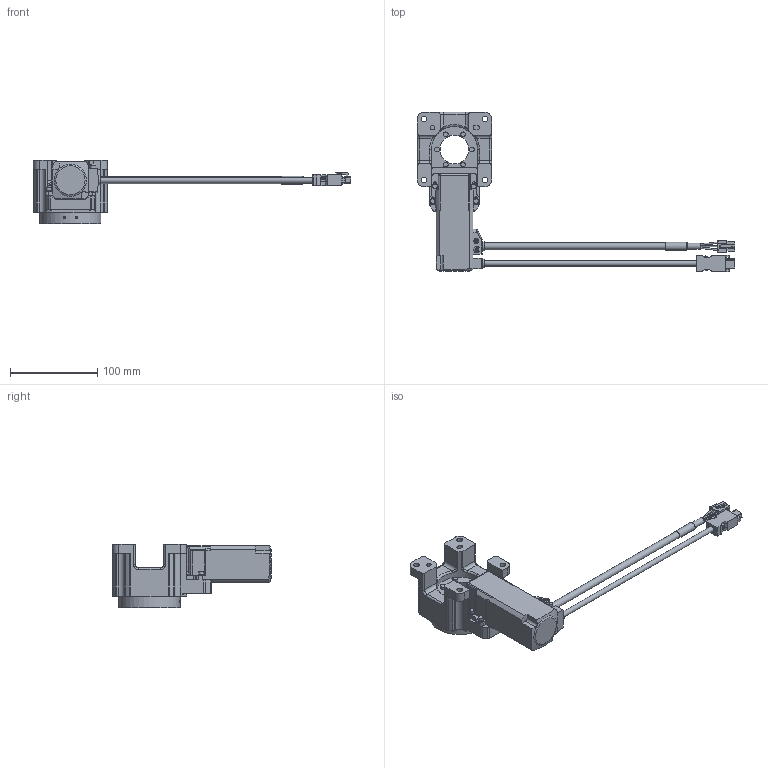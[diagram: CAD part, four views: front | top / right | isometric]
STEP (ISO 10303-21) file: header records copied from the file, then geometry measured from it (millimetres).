
FILE_DESCRIPTION (( 'STEP AP203' ), '1' );
FILE_NAME ('DGB85R12-AZACL.STEP', '2019-09-30T01:32:09', ( 'U38102' ), ( 'Hewlett-Packard Company' ), 'SwSTEP 2.0', 'SolidWorks 2017', '' );
FILE_SCHEMA (( 'CONFIG_CONTROL_DESIGN' ));
Length unit declared in the file: millimetre
Products named in the file (3): DGB85R12-AZACL_BASE; DGB85R12-AZACL_MovingPart; DGB85R12-AZACL
Assembly tree (2 placements, depth 2):
  DGB85R12-AZACL
    DGB85R12-AZACL_BASE
    DGB85R12-AZACL_MovingPart
Bounding box: 363.5 x 182.4 x 73 mm (x, y, z)
Volume: 480636.9 mm3; surface area: 92431.6 mm2
Topology: 2 solids, 13 shells, 860 faces, 2219 edges, 1441 vertices
Faces by surface type: plane 573, cylinder 228, cone 19, bspline 18, torus 17, sphere 5
Full cylindrical faces by diameter (mm): 0.5 x6, 2.05 x2, 2.5 x6, 3 x4, 3.3 x6, 5 x3, 5.2 x1, 5.5 x10, 5.8 x1, 5.9 x4, 6 x5, 6.5 x4, 7 x2, 8 x1, 9 x1, 10 x1, 10.5 x1, 33 x1, 39.3 x2, 52 x1, 70 x1
Entity records: 28543 total; most frequent: CARTESIAN_POINT 7562, DIRECTION 4228, ORIENTED_EDGE 4186, EDGE_CURVE 2093, LINE 1512, VECTOR 1512, VERTEX_POINT 1410, AXIS2_PLACEMENT_3D 1358
